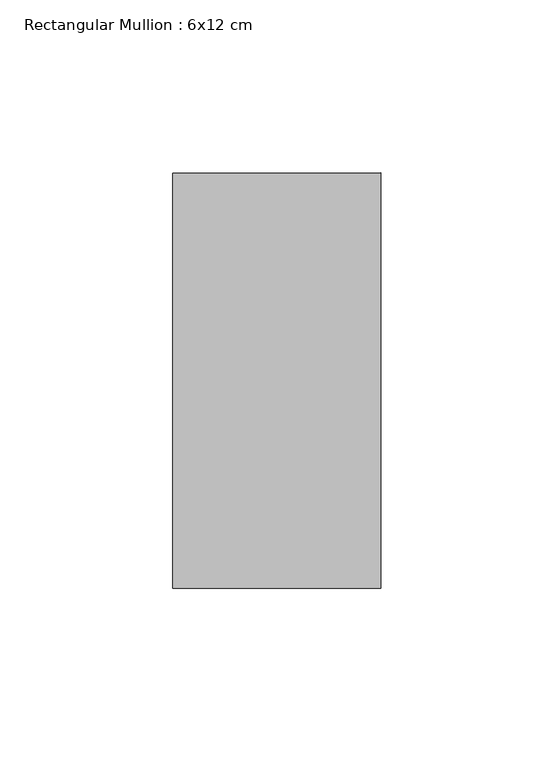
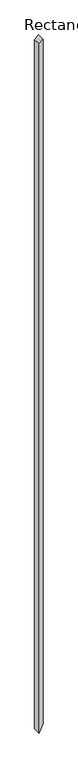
"""IFC4 building model written with IfcOpenShell, lengths in millimetres: member geometry, Rectangular Mullion : 6x12 cm."""

from ifc_helpers import new_model, si_unit, frame, origin, place, context, project, spatial, polyline, outline, extrude, source, transform, mapped, element, save


def rectangular_mullion_6x12_cm_0f0c239c(model_context):
    return source(origin(), model_context, "Body", "SweptSolid", [
        extrude(outline(polyline([(-53.9488065, 30.0), (-109.2582939, -30.0), (-11421.7344183, -30.0), (-11292.1778678, 30.0), (-53.9488065, 30.0)])), frame((0.0, 85.0, 0.0), z_axis=(0.0, 1.0, 0.0), x_axis=(0.0, 0.0, 1.0)), (0.0, 0.0, 1.0), 120.0),
    ])


if __name__ == "__main__":
    model = new_model("IFC4")
    model_context = context("Model", 3, world=origin())
    ifc_project = project(units=[si_unit("LENGTHUNIT", "METRE", prefix="MILLI")], contexts=[model_context])
    site = spatial("IfcSite", under=ifc_project)
    building = spatial("IfcBuilding", under=site)
    placement = place(None, origin())
    rectangular_mullion_6x12_cm_shape = rectangular_mullion_6x12_cm_0f0c239c(model_context)
    element("IfcMember", 1, ObjectType="Rectangular Mullion : 6x12 cm", at=placement, inside=building, context=model_context, shape_type="MappedRepresentation", body=[
        mapped(rectangular_mullion_6x12_cm_shape, transform((0.0, 0.0, 0.0), x_axis=(1.0, 0.0, 0.0), y_axis=(0.0, 1.0, 0.0), z_axis=(0.0, 0.0, 1.0))),
    ])
    save(model, "model.ifc")
